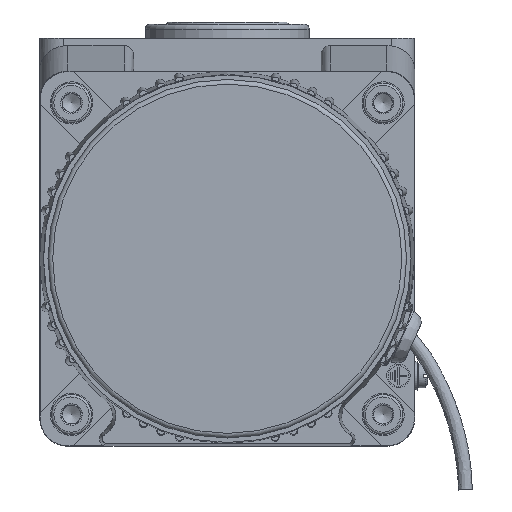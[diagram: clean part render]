
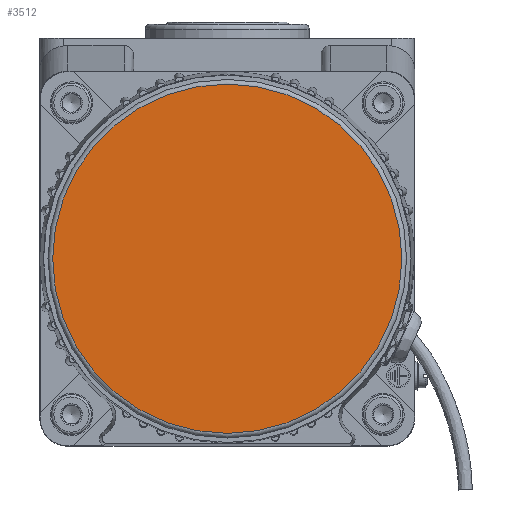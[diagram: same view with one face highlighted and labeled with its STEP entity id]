
A CAD part, left-side view. The second image highlights one B-rep face of the part: STEP entity #3512.
In plain terms, the highlighted planar face has unit normal (-1, 0, 0).
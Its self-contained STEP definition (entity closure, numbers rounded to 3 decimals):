
#3512=ADVANCED_FACE('',(#4770),#4222,.F.);
#4222=PLANE('',#14775);
#4770=FACE_OUTER_BOUND('',#5630,.T.);
#5630=EDGE_LOOP('',(#7868));
#7868=ORIENTED_EDGE('',*,*,#11830,.T.);
#10496=VERTEX_POINT('',#20961);
#11830=EDGE_CURVE('',#10496,#10496,#13652,.T.);
#13652=CIRCLE('',#14497,37.25);
#14497=AXIS2_PLACEMENT_3D('',#20960,#16237,#16238);
#14775=AXIS2_PLACEMENT_3D('',#28985,#16870,#16871);
#16237=DIRECTION('',(-1.,0.,0.));
#16238=DIRECTION('',(0.,0.,-1.));
#16870=DIRECTION('',(1.,0.,0.));
#16871=DIRECTION('',(0.,0.,-1.));
#20960=CARTESIAN_POINT('',(-86.,40.,40.));
#20961=CARTESIAN_POINT('',(-86.,40.,2.75));
#28985=CARTESIAN_POINT('',(-86.,40.,78.25));
